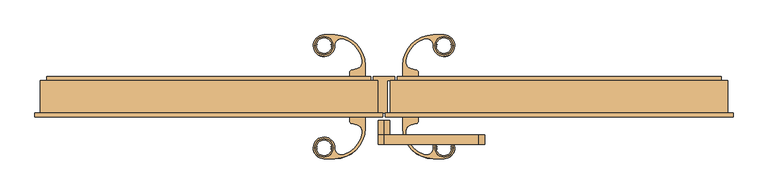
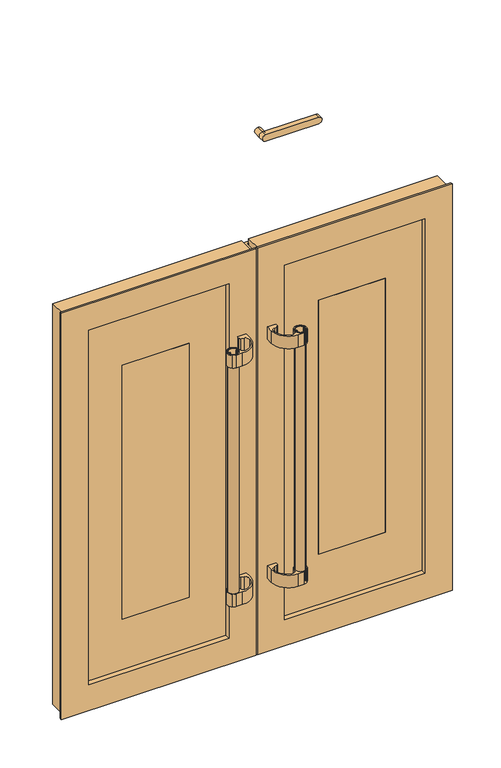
"""IFC4 building model written with IfcOpenShell, lengths in millimetres: door geometry, Dvokrilna vrata s ventusom : Dvokrilna vrata s ventusom."""

from ifc_helpers import new_model, si_unit, point, frame, frame_2d, origin, place, context, project, spatial, polyline, circle_curve, trimmed, segment, composite_curve, outline, extrude, faceted_brep, source, transform, mapped, element, save
from ifc_brep_helpers import plane_surface, cylinder_surface, advanced_brep


def door_8541cdd4(model_context):
    return source(origin(), model_context, "Body", "SolidModel", [
        extrude(outline(composite_curve([segment(trimmed(circle_curve(frame_2d((-126.3468771, 125.4548223)), 19.0), [point((-107.3468771, 125.4548223))], [point((-145.3468771, 125.4548223))], False, "CARTESIAN"), True, "CONTINUOUS"), segment(trimmed(circle_curve(frame_2d((-126.3468771, 125.4548223)), 19.0), [point((-145.3468771, 125.4548223))], [point((-107.3468771, 125.4548223))], False, "CARTESIAN"), True, "CONTINUOUS")], self_intersect=False), holes=[composite_curve([segment(polyline([(-112.9828926, 126.5508378), (-114.1294939, 126.5508378), (-114.1294939, 127.5219871)]), True, "CONTINUOUS"), segment(trimmed(circle_curve(frame_2d((-111.8868771, 125.4548223)), 3.05), [point((-114.1294939, 127.5219871))], [point((-111.8868771, 128.5048223))], False, "CARTESIAN"), True, "CONTINUOUS"), segment(polyline([(-111.8868771, 128.5048223), (-110.6402702, 128.5048223)]), True, "CONTINUOUS"), segment(trimmed(circle_curve(frame_2d((-126.3468771, 125.4548223)), 16.0), [point((-110.6402702, 128.5048223))], [point((-142.053484, 128.5048223))], True, "CARTESIAN"), True, "CONTINUOUS"), segment(polyline([(-142.053484, 128.5048223), (-140.8468771, 128.5048223)]), True, "CONTINUOUS"), segment(trimmed(circle_curve(frame_2d((-140.8468771, 125.4548223)), 3.05), [point((-140.8468771, 128.5048223))], [point((-138.6042604, 127.5219871))], False, "CARTESIAN"), True, "CONTINUOUS"), segment(polyline([(-138.6042604, 127.5219871), (-138.6042604, 126.5508378), (-139.7508616, 126.5508378)]), True, "CONTINUOUS"), segment(trimmed(circle_curve(frame_2d((-140.8468771, 125.4548223)), 1.55), [point((-139.7508616, 126.5508378))], [point((-139.7508616, 124.3588068))], True, "CARTESIAN"), True, "CONTINUOUS"), segment(polyline([(-139.7508616, 124.3588068), (-138.6042604, 124.3588068), (-138.6042604, 123.3876576)]), True, "CONTINUOUS"), segment(trimmed(circle_curve(frame_2d((-140.8468771, 125.4548223)), 3.05), [point((-138.6042604, 123.3876576))], [point((-140.8468771, 122.4048223))], False, "CARTESIAN"), True, "CONTINUOUS"), segment(polyline([(-140.8468771, 122.4048223), (-142.053484, 122.4048223)]), True, "CONTINUOUS"), segment(trimmed(circle_curve(frame_2d((-126.3468771, 125.4548223)), 16.0), [point((-142.053484, 122.4048223))], [point((-110.6402702, 122.4048223))], True, "CARTESIAN"), True, "CONTINUOUS"), segment(polyline([(-110.6402702, 122.4048223), (-111.8868771, 122.4048223)]), True, "CONTINUOUS"), segment(trimmed(circle_curve(frame_2d((-111.8868771, 125.4548223)), 3.05), [point((-111.8868771, 122.4048223))], [point((-114.1294939, 123.3876576))], False, "CARTESIAN"), True, "CONTINUOUS"), segment(polyline([(-114.1294939, 123.3876576), (-114.1294939, 124.3588068), (-112.9828926, 124.3588068)]), True, "CONTINUOUS"), segment(trimmed(circle_curve(frame_2d((-111.8868771, 125.4548223)), 1.55), [point((-112.9828926, 124.3588068))], [point((-112.9828926, 126.5508378))], True, "CARTESIAN"), True, "CONTINUOUS")], self_intersect=False)]), frame((0.0, 0.0, 310.4), z_axis=(0.0, 0.0, 1.0), x_axis=(1.0, 0.0, 0.0)), (0.0, 0.0, 1.0), 1000.0),
        extrude(outline(composite_curve([segment(polyline([(-44.8, 60.0070601), (-71.8, 60.0070601), (-71.8, 69.3089889)]), True, "CONTINUOUS"), segment(trimmed(circle_curve(frame_2d((-66.8, 69.3089889)), 5.0), [point((-71.8, 69.3089889))], [point((-68.0940952, 74.1386181))], False, "CARTESIAN"), True, "CONTINUOUS"), segment(polyline([(-68.0940952, 74.1386181), (-56.563748, 77.2281653)]), True, "CONTINUOUS"), segment(trimmed(circle_curve(frame_2d((-60.4470213, 91.7207385)), 15.0038159), [point((-56.563748, 77.2281653))], [point((-45.732154, 94.6511262))], True, "CARTESIAN"), True, "CONTINUOUS"), segment(trimmed(circle_curve(frame_2d((-103.7276627, 84.2655205)), 58.9180773), [point((-45.732154, 94.6511262))], [point((-83.4290233, 139.5765056))], True, "CARTESIAN"), True, "CONTINUOUS"), segment(trimmed(circle_curve(frame_2d((-88.5968855, 125.4947959)), 15.0000449), [point((-83.4290233, 139.5765056))], [point((-103.5968771, 125.4548223))], True, "CARTESIAN"), True, "CONTINUOUS"), segment(trimmed(circle_curve(frame_2d((-126.2285098, 125.3945111)), 22.631713), [point((-103.5968771, 125.4548223))], [point((-112.9747626, 107.0496857))], False, "CARTESIAN"), True, "CONTINUOUS"), segment(trimmed(circle_curve(frame_2d((-126.3418186, 125.5513446)), 22.8251959), [point((-112.9747626, 107.0496857))], [point((-141.5695984, 108.5482775))], False, "CARTESIAN"), True, "CONTINUOUS"), segment(trimmed(circle_curve(frame_2d((-126.4246143, 125.4588964)), 22.7010919), [point((-141.5695984, 108.5482775))], [point((-139.7189916, 143.8599589))], False, "CARTESIAN"), True, "CONTINUOUS"), segment(trimmed(circle_curve(frame_2d((-126.2827327, 125.2625146)), 22.9433648), [point((-139.7189916, 143.8599589))], [point((-126.7011778, 148.2020633))], False, "CARTESIAN"), True, "CONTINUOUS"), segment(polyline([(-126.7011778, 148.2020633), (-103.797241, 148.2020633)]), True, "CONTINUOUS"), segment(trimmed(circle_curve(frame_2d((-103.797241, 84.2048223)), 63.997241), [point((-103.797241, 148.2020633))], [point((-39.8, 84.2048223))], False, "CARTESIAN"), True, "CONTINUOUS"), segment(polyline([(-39.8, 84.2048223), (-39.8, 60.0070601), (-44.8, 60.0070601)]), True, "CONTINUOUS")], self_intersect=False), holes=[composite_curve([segment(trimmed(circle_curve(frame_2d((-126.3468771, 125.4548223)), 19.25), [point((-107.0968771, 125.4548223))], [point((-145.5968771, 125.4548223))], True, "CARTESIAN"), True, "CONTINUOUS"), segment(trimmed(circle_curve(frame_2d((-126.3468771, 125.4548223)), 19.25), [point((-145.5968771, 125.4548223))], [point((-107.0968771, 125.4548223))], True, "CARTESIAN"), True, "CONTINUOUS")], self_intersect=False)]), frame((0.0, 0.0, 1260.4), z_axis=(0.0, 0.0, 1.0), x_axis=(1.0, 0.0, 0.0)), (0.0, 0.0, 1.0), 50.0),
        extrude(outline(composite_curve([segment(polyline([(-44.8, 60.0070601), (-71.8, 60.0070601), (-71.8, 69.3089889)]), True, "CONTINUOUS"), segment(trimmed(circle_curve(frame_2d((-66.8, 69.3089889)), 5.0), [point((-71.8, 69.3089889))], [point((-68.0940952, 74.1386181))], False, "CARTESIAN"), True, "CONTINUOUS"), segment(polyline([(-68.0940952, 74.1386181), (-56.563748, 77.2281653)]), True, "CONTINUOUS"), segment(trimmed(circle_curve(frame_2d((-60.4470213, 91.7207385)), 15.0038159), [point((-56.563748, 77.2281653))], [point((-45.732154, 94.6511262))], True, "CARTESIAN"), True, "CONTINUOUS"), segment(trimmed(circle_curve(frame_2d((-103.7276627, 84.2655205)), 58.9180773), [point((-45.732154, 94.6511262))], [point((-83.4290233, 139.5765056))], True, "CARTESIAN"), True, "CONTINUOUS"), segment(trimmed(circle_curve(frame_2d((-88.5968855, 125.4947959)), 15.0000449), [point((-83.4290233, 139.5765056))], [point((-103.5968771, 125.4548223))], True, "CARTESIAN"), True, "CONTINUOUS"), segment(trimmed(circle_curve(frame_2d((-126.2285098, 125.3945111)), 22.631713), [point((-103.5968771, 125.4548223))], [point((-112.9747626, 107.0496857))], False, "CARTESIAN"), True, "CONTINUOUS"), segment(trimmed(circle_curve(frame_2d((-126.3418186, 125.5513446)), 22.8251959), [point((-112.9747626, 107.0496857))], [point((-141.5695984, 108.5482775))], False, "CARTESIAN"), True, "CONTINUOUS"), segment(trimmed(circle_curve(frame_2d((-126.4246143, 125.4588964)), 22.7010919), [point((-141.5695984, 108.5482775))], [point((-139.7189916, 143.8599589))], False, "CARTESIAN"), True, "CONTINUOUS"), segment(trimmed(circle_curve(frame_2d((-126.2827327, 125.2625146)), 22.9433648), [point((-139.7189916, 143.8599589))], [point((-126.7011778, 148.2020633))], False, "CARTESIAN"), True, "CONTINUOUS"), segment(polyline([(-126.7011778, 148.2020633), (-103.797241, 148.2020633)]), True, "CONTINUOUS"), segment(trimmed(circle_curve(frame_2d((-103.797241, 84.2048223)), 63.997241), [point((-103.797241, 148.2020633))], [point((-39.8, 84.2048223))], False, "CARTESIAN"), True, "CONTINUOUS"), segment(polyline([(-39.8, 84.2048223), (-39.8, 60.0070601), (-44.8, 60.0070601)]), True, "CONTINUOUS")], self_intersect=False), holes=[composite_curve([segment(trimmed(circle_curve(frame_2d((-126.3468771, 125.4548223)), 19.25), [point((-107.0968771, 125.4548223))], [point((-145.5968771, 125.4548223))], True, "CARTESIAN"), True, "CONTINUOUS"), segment(trimmed(circle_curve(frame_2d((-126.3468771, 125.4548223)), 19.25), [point((-145.5968771, 125.4548223))], [point((-107.0968771, 125.4548223))], True, "CARTESIAN"), True, "CONTINUOUS")], self_intersect=False)]), frame((0.0, 0.0, 310.4), z_axis=(0.0, 0.0, 1.0), x_axis=(1.0, 0.0, 0.0)), (0.0, 0.0, 1.0), 50.0),
        extrude(outline(composite_curve([segment(trimmed(circle_curve(frame_2d((-126.3468771, -90.4477622)), 19.0), [point((-107.3468771, -90.4477622))], [point((-145.3468771, -90.4477622))], False, "CARTESIAN"), True, "CONTINUOUS"), segment(trimmed(circle_curve(frame_2d((-126.3468771, -90.4477622)), 19.0), [point((-145.3468771, -90.4477622))], [point((-107.3468771, -90.4477622))], False, "CARTESIAN"), True, "CONTINUOUS")], self_intersect=False), holes=[composite_curve([segment(trimmed(circle_curve(frame_2d((-111.8868771, -90.4477622)), 1.55), [point((-112.9828926, -91.5437777))], [point((-112.9828926, -89.3517467))], True, "CARTESIAN"), True, "CONTINUOUS"), segment(polyline([(-112.9828926, -89.3517467), (-114.1294939, -89.3517467), (-114.1294939, -88.3805975)]), True, "CONTINUOUS"), segment(trimmed(circle_curve(frame_2d((-111.8868771, -90.4477622)), 3.05), [point((-114.1294939, -88.3805975))], [point((-111.8868771, -87.3977622))], False, "CARTESIAN"), True, "CONTINUOUS"), segment(polyline([(-111.8868771, -87.3977622), (-110.6402702, -87.3977622)]), True, "CONTINUOUS"), segment(trimmed(circle_curve(frame_2d((-126.3468771, -90.4477622)), 16.0), [point((-110.6402702, -87.3977622))], [point((-142.053484, -87.3977622))], True, "CARTESIAN"), True, "CONTINUOUS"), segment(polyline([(-142.053484, -87.3977622), (-140.8468771, -87.3977622)]), True, "CONTINUOUS"), segment(trimmed(circle_curve(frame_2d((-140.8468771, -90.4477622)), 3.05), [point((-140.8468771, -87.3977622))], [point((-138.6042604, -88.3805975))], False, "CARTESIAN"), True, "CONTINUOUS"), segment(polyline([(-138.6042604, -88.3805975), (-138.6042604, -89.3517467), (-139.7508616, -89.3517467)]), True, "CONTINUOUS"), segment(trimmed(circle_curve(frame_2d((-140.8468771, -90.4477622)), 1.55), [point((-139.7508616, -89.3517467))], [point((-139.7508616, -91.5437777))], True, "CARTESIAN"), True, "CONTINUOUS"), segment(polyline([(-139.7508616, -91.5437777), (-138.6042604, -91.5437777), (-138.6042604, -92.514927)]), True, "CONTINUOUS"), segment(trimmed(circle_curve(frame_2d((-140.8468771, -90.4477622)), 3.05), [point((-138.6042604, -92.514927))], [point((-140.8468771, -93.4977622))], False, "CARTESIAN"), True, "CONTINUOUS"), segment(polyline([(-140.8468771, -93.4977622), (-142.053484, -93.4977622)]), True, "CONTINUOUS"), segment(trimmed(circle_curve(frame_2d((-126.3468771, -90.4477622)), 16.0), [point((-142.053484, -93.4977622))], [point((-110.6402702, -93.4977622))], True, "CARTESIAN"), True, "CONTINUOUS"), segment(polyline([(-110.6402702, -93.4977622), (-111.8868771, -93.4977622)]), True, "CONTINUOUS"), segment(trimmed(circle_curve(frame_2d((-111.8868771, -90.4477622)), 3.05), [point((-111.8868771, -93.4977622))], [point((-114.1294939, -92.514927))], False, "CARTESIAN"), True, "CONTINUOUS"), segment(polyline([(-114.1294939, -92.514927), (-114.1294939, -91.5437777), (-112.9828926, -91.5437777)]), True, "CONTINUOUS")], self_intersect=False)]), frame((0.0, 0.0, 310.4), z_axis=(0.0, 0.0, 1.0), x_axis=(1.0, 0.0, 0.0)), (0.0, 0.0, 1.0), 1000.0),
        extrude(outline(composite_curve([segment(polyline([(-44.8, -25.0), (-39.8, -25.0), (-39.8, -49.1977622)]), True, "CONTINUOUS"), segment(trimmed(circle_curve(frame_2d((-103.797241, -49.1977622)), 63.997241), [point((-39.8, -49.1977622))], [point((-103.797241, -113.1950032))], False, "CARTESIAN"), True, "CONTINUOUS"), segment(polyline([(-103.797241, -113.1950032), (-126.7011778, -113.1950032)]), True, "CONTINUOUS"), segment(trimmed(circle_curve(frame_2d((-126.2827327, -90.2554545)), 22.9433648), [point((-126.7011778, -113.1950032))], [point((-139.7189916, -108.8528989))], False, "CARTESIAN"), True, "CONTINUOUS"), segment(trimmed(circle_curve(frame_2d((-126.4246143, -90.4518363)), 22.7010919), [point((-139.7189916, -108.8528989))], [point((-141.5695984, -73.5412175))], False, "CARTESIAN"), True, "CONTINUOUS"), segment(trimmed(circle_curve(frame_2d((-126.3418186, -90.5442845)), 22.8251959), [point((-141.5695984, -73.5412175))], [point((-112.9747626, -72.0426256))], False, "CARTESIAN"), True, "CONTINUOUS"), segment(trimmed(circle_curve(frame_2d((-126.2285098, -90.3874511)), 22.631713), [point((-112.9747626, -72.0426256))], [point((-103.5968771, -90.4477622))], False, "CARTESIAN"), True, "CONTINUOUS"), segment(trimmed(circle_curve(frame_2d((-88.5968855, -90.4877358)), 15.0000449), [point((-103.5968771, -90.4477622))], [point((-83.4290233, -104.5694455))], True, "CARTESIAN"), True, "CONTINUOUS"), segment(trimmed(circle_curve(frame_2d((-103.7276627, -49.2584604)), 58.9180773), [point((-83.4290233, -104.5694455))], [point((-45.732154, -59.6440661))], True, "CARTESIAN"), True, "CONTINUOUS"), segment(trimmed(circle_curve(frame_2d((-60.4470213, -56.7136785)), 15.0038159), [point((-45.732154, -59.6440661))], [point((-56.563748, -42.2211052))], True, "CARTESIAN"), True, "CONTINUOUS"), segment(polyline([(-56.563748, -42.2211052), (-68.0940952, -39.131558)]), True, "CONTINUOUS"), segment(trimmed(circle_curve(frame_2d((-66.8, -34.3019289)), 5.0), [point((-68.0940952, -39.131558))], [point((-71.8, -34.3019289))], False, "CARTESIAN"), True, "CONTINUOUS"), segment(polyline([(-71.8, -34.3019289), (-71.8, -25.0), (-44.8, -25.0)]), True, "CONTINUOUS")], self_intersect=False), holes=[composite_curve([segment(trimmed(circle_curve(frame_2d((-126.3468771, -90.4477622)), 19.25), [point((-107.0968771, -90.4477622))], [point((-145.5968771, -90.4477622))], True, "CARTESIAN"), True, "CONTINUOUS"), segment(trimmed(circle_curve(frame_2d((-126.3468771, -90.4477622)), 19.25), [point((-145.5968771, -90.4477622))], [point((-107.0968771, -90.4477622))], True, "CARTESIAN"), True, "CONTINUOUS")], self_intersect=False)]), frame((0.0, 0.0, 1260.4), z_axis=(0.0, 0.0, 1.0), x_axis=(1.0, 0.0, 0.0)), (0.0, 0.0, 1.0), 50.0),
        extrude(outline(composite_curve([segment(polyline([(-44.8, -25.0), (-39.8, -25.0), (-39.8, -49.1977622)]), True, "CONTINUOUS"), segment(trimmed(circle_curve(frame_2d((-103.797241, -49.1977622)), 63.997241), [point((-39.8, -49.1977622))], [point((-103.797241, -113.1950032))], False, "CARTESIAN"), True, "CONTINUOUS"), segment(polyline([(-103.797241, -113.1950032), (-126.7011778, -113.1950032)]), True, "CONTINUOUS"), segment(trimmed(circle_curve(frame_2d((-126.2827327, -90.2554545)), 22.9433648), [point((-126.7011778, -113.1950032))], [point((-139.7189916, -108.8528989))], False, "CARTESIAN"), True, "CONTINUOUS"), segment(trimmed(circle_curve(frame_2d((-126.4246143, -90.4518363)), 22.7010919), [point((-139.7189916, -108.8528989))], [point((-141.5695984, -73.5412175))], False, "CARTESIAN"), True, "CONTINUOUS"), segment(trimmed(circle_curve(frame_2d((-126.3418186, -90.5442845)), 22.8251959), [point((-141.5695984, -73.5412175))], [point((-112.9747626, -72.0426256))], False, "CARTESIAN"), True, "CONTINUOUS"), segment(trimmed(circle_curve(frame_2d((-126.2285098, -90.3874511)), 22.631713), [point((-112.9747626, -72.0426256))], [point((-103.5968771, -90.4477622))], False, "CARTESIAN"), True, "CONTINUOUS"), segment(trimmed(circle_curve(frame_2d((-88.5968855, -90.4877358)), 15.0000449), [point((-103.5968771, -90.4477622))], [point((-83.4290233, -104.5694455))], True, "CARTESIAN"), True, "CONTINUOUS"), segment(trimmed(circle_curve(frame_2d((-103.7276627, -49.2584604)), 58.9180773), [point((-83.4290233, -104.5694455))], [point((-45.732154, -59.6440661))], True, "CARTESIAN"), True, "CONTINUOUS"), segment(trimmed(circle_curve(frame_2d((-60.4470213, -56.7136785)), 15.0038159), [point((-45.732154, -59.6440661))], [point((-56.563748, -42.2211052))], True, "CARTESIAN"), True, "CONTINUOUS"), segment(polyline([(-56.563748, -42.2211052), (-68.0940952, -39.131558)]), True, "CONTINUOUS"), segment(trimmed(circle_curve(frame_2d((-66.8, -34.3019289)), 5.0), [point((-68.0940952, -39.131558))], [point((-71.8, -34.3019289))], False, "CARTESIAN"), True, "CONTINUOUS"), segment(polyline([(-71.8, -34.3019289), (-71.8, -25.0), (-44.8, -25.0)]), True, "CONTINUOUS")], self_intersect=False), holes=[composite_curve([segment(trimmed(circle_curve(frame_2d((-126.3468771, -90.4477622)), 19.25), [point((-107.0968771, -90.4477622))], [point((-145.5968771, -90.4477622))], True, "CARTESIAN"), True, "CONTINUOUS"), segment(trimmed(circle_curve(frame_2d((-126.3468771, -90.4477622)), 19.25), [point((-145.5968771, -90.4477622))], [point((-107.0968771, -90.4477622))], True, "CARTESIAN"), True, "CONTINUOUS")], self_intersect=False)]), frame((0.0, 0.0, 310.4), z_axis=(0.0, 0.0, 1.0), x_axis=(1.0, 0.0, 0.0)), (0.0, 0.0, 1.0), 50.0),
        faceted_brep([(-104.9959227, -25.0, 1533.0040773), (-104.9959227, -5.1975248, 1533.0040773), (-104.9959227, -5.1975248, 122.4959227), (-104.9959227, -25.0, 122.4959227), (-84.4102206, -5.1975248, 1553.5897794), (-84.4102206, -5.1975248, 101.9102206), (-653.5897794, -5.1975248, 101.9102206), (-653.5897794, -5.1975248, 1553.5897794), (-633.0040773, -5.1975248, 1533.0040773), (-633.0040773, -5.1975248, 122.4959227), (-633.0040773, -25.0, 122.4959227), (-2.5, -25.0, 20.0), (-2.5, -25.0, 1635.5), (-735.5, -25.0, 1635.5), (-735.5, -25.0, 20.0), (-633.0040773, -25.0, 1533.0040773), (-84.4102206, 47.3125612, 1553.5897794), (-84.4102206, 47.3125612, 101.9102206), (-36.5110576, 47.3125612, 1601.4889424), (-36.5110576, 47.3125612, 54.0110576), (-701.4889424, 47.3125612, 54.0110576), (-701.4889424, 47.3125612, 1601.4889424), (-653.5897794, 47.3125612, 1553.5897794), (-653.5897794, 47.3125612, 101.9102206), (-36.5110576, 51.5919173, 1601.4889424), (-36.5110576, 51.5919173, 54.0110576), (-28.8049947, 51.5919173, 1609.1950053), (-28.8049947, 51.5919173, 46.3049947), (-709.1950053, 51.5919173, 46.3049947), (-709.1950053, 51.5919173, 1609.1950053), (-701.4889424, 51.5919173, 1601.4889424), (-701.4889424, 51.5919173, 54.0110576), (-28.8049947, 60.0070601, 1609.1950053), (-28.8049947, 60.0070601, 46.3049947), (-27.4996768, 60.0070601, 1610.5003232), (-27.4996768, 60.0070601, 44.9996768), (-710.5003232, 60.0070601, 44.9996768), (-710.5003232, 60.0070601, 1610.5003232), (-709.1950053, 60.0070601, 1609.1950053), (-709.1950053, 60.0070601, 46.3049947), (-27.4996768, 51.4919173, 1610.5003232), (-27.4996768, 51.4919173, 44.9996768), (-13.5, 51.4919173, 31.0), (-724.5, 51.4919173, 31.0), (-724.5, 51.4919173, 1624.5), (-13.5, 51.4919173, 1624.5), (-13.5, 51.4919173, 1607.0), (-17.35, 51.4919173, 1607.0), (-22.5017399, 51.4919173, 1607.0), (-22.5017399, 51.4919173, 48.5), (-17.35, 51.4919173, 48.5), (-13.5, 51.4919173, 48.5), (-710.5003232, 51.4919173, 1610.5003232), (-710.5003232, 51.4919173, 44.9996768), (-13.5, -16.646765, 31.0), (-13.5, -16.646765, 48.5), (-13.5, -16.646765, 1624.5), (-13.5, -16.646765, 1607.0), (-724.5, -16.646765, 31.0), (-22.5017399, 59.9919173, 48.5), (22.4957893, 59.9919173, 48.5), (22.4957893, 51.5218617, 48.5), (7.0030683, 51.5218617, 48.5), (7.0030683, -16.5069245, 48.5), (-2.5, -16.646765, 48.5), (-2.5, -16.646765, 20.0), (-735.5, -16.646765, 20.0), (-735.5, -16.646765, 1635.5), (-2.5, -16.646765, 1635.5), (-2.5, -16.646765, 1607.0), (-724.5, -16.646765, 1624.5), (7.0030683, -16.5069245, 1607.0), (-22.5017399, 59.9919173, 1607.0), (22.4957893, 59.9919173, 1607.0), (22.4957893, 51.5218617, 1607.0), (7.0030683, 51.5218617, 1607.0)], [[[0, 1, 2, 3]], [[4, 5, 6, 7], [2, 1, 8, 9]], [[3, 2, 9, 10]], [[11, 12, 13, 14], [0, 3, 10, 15]], [[4, 16, 17, 5]], [[18, 19, 20, 21], [17, 16, 22, 23]], [[5, 17, 23, 6]], [[18, 24, 25, 19]], [[26, 27, 28, 29], [25, 24, 30, 31]], [[19, 25, 31, 20]], [[26, 32, 33, 27]], [[34, 35, 36, 37], [33, 32, 38, 39]], [[27, 33, 39, 28]], [[34, 40, 41, 35]], [[42, 43, 44, 45, 46, 47, 48, 49, 50, 51], [41, 40, 52, 53]], [[35, 41, 53, 36]], [[54, 42, 51, 55]], [[45, 56, 57, 46]], [[42, 54, 58, 43]], [[49, 59, 60, 61, 62, 63, 64, 55, 51, 50]], [[58, 54, 55, 64, 65, 66, 67, 68, 69, 57, 56, 70]], [[12, 11, 65, 64, 69, 68]], [[65, 11, 14, 66]], [[63, 71, 69, 64]], [[10, 9, 8, 15]], [[6, 23, 22, 7]], [[20, 31, 30, 21]], [[28, 39, 38, 29]], [[36, 53, 52, 37]], [[43, 58, 70, 44]], [[66, 14, 13, 67]], [[48, 72, 59, 49]], [[72, 73, 60, 59]], [[73, 74, 61, 60]], [[74, 75, 62, 61]], [[75, 71, 63, 62]], [[1, 0, 15, 8]], [[16, 4, 7, 22]], [[24, 18, 21, 30]], [[32, 26, 29, 38]], [[40, 34, 37, 52]], [[56, 45, 44, 70]], [[12, 68, 67, 13]], [[71, 75, 74, 73, 72, 48, 47, 46, 57, 69]]]),
        extrude(outline(polyline([(-242.7, -5.1975248), (-495.3, -5.1975248), (-495.3, 60.0070601), (-242.7, 60.0070601), (-242.7, -5.1975248)])), frame((0.0, 0.0, 322.4959227), z_axis=(0.0, 0.0, 1.0), x_axis=(1.0, 0.0, 0.0)), (0.0, 0.0, 1.0), 1010.5081546),
        extrude(outline(polyline([(1609.1950053, -28.8049947), (1609.1950053, -709.1950053), (46.3049947, -709.1950053), (46.3049947, -28.8049947), (1609.1950053, -28.8049947)]), holes=[polyline([(1333.0040773, -495.3), (1333.0040773, -242.7), (322.4959227, -242.7), (322.4959227, -495.3), (1333.0040773, -495.3)])]), frame((0.0, 57.0070601, 0.0), z_axis=(0.0, 1.0, 0.0), x_axis=(0.0, 0.0, 1.0)), (0.0, 0.0, 1.0), 3.0),
        extrude(outline(polyline([(1533.0040773, -104.9959227), (1533.0040773, -633.0040773), (122.4959227, -633.0040773), (122.4959227, -104.9959227), (1533.0040773, -104.9959227)]), holes=[polyline([(1333.0040773, -495.3), (1333.0040773, -242.7), (322.4959227, -242.7), (322.4959227, -495.3), (1333.0040773, -495.3)])]), frame((0.0, -5.1975248, 0.0), z_axis=(0.0, 1.0, 0.0), x_axis=(0.0, 0.0, 1.0)), (0.0, 0.0, 1.0), 3.0),
        extrude(outline(composite_curve([segment(trimmed(circle_curve(frame_2d((126.3468771, 125.4548223)), 19.0), [point((107.3468771, 125.4548223))], [point((145.3468771, 125.4548223))], False, "CARTESIAN"), True, "CONTINUOUS"), segment(trimmed(circle_curve(frame_2d((126.3468771, 125.4548223)), 19.0), [point((145.3468771, 125.4548223))], [point((107.3468771, 125.4548223))], False, "CARTESIAN"), True, "CONTINUOUS")], self_intersect=False), holes=[composite_curve([segment(trimmed(circle_curve(frame_2d((111.8868771, 125.4548223)), 1.55), [point((112.9828926, 126.5508378))], [point((112.9828926, 124.3588068))], True, "CARTESIAN"), True, "CONTINUOUS"), segment(polyline([(112.9828926, 124.3588068), (114.1294939, 124.3588068), (114.1294939, 123.3876576)]), True, "CONTINUOUS"), segment(trimmed(circle_curve(frame_2d((111.8868771, 125.4548223)), 3.05), [point((114.1294939, 123.3876576))], [point((111.8868771, 122.4048223))], False, "CARTESIAN"), True, "CONTINUOUS"), segment(polyline([(111.8868771, 122.4048223), (110.6402702, 122.4048223)]), True, "CONTINUOUS"), segment(trimmed(circle_curve(frame_2d((126.3468771, 125.4548223)), 16.0), [point((110.6402702, 122.4048223))], [point((142.053484, 122.4048223))], True, "CARTESIAN"), True, "CONTINUOUS"), segment(polyline([(142.053484, 122.4048223), (140.8468771, 122.4048223)]), True, "CONTINUOUS"), segment(trimmed(circle_curve(frame_2d((140.8468771, 125.4548223)), 3.05), [point((140.8468771, 122.4048223))], [point((138.6042604, 123.3876576))], False, "CARTESIAN"), True, "CONTINUOUS"), segment(polyline([(138.6042604, 123.3876576), (138.6042604, 124.3588068), (139.7508616, 124.3588068)]), True, "CONTINUOUS"), segment(trimmed(circle_curve(frame_2d((140.8468771, 125.4548223)), 1.55), [point((139.7508616, 124.3588068))], [point((139.7508616, 126.5508378))], True, "CARTESIAN"), True, "CONTINUOUS"), segment(polyline([(139.7508616, 126.5508378), (138.6042604, 126.5508378), (138.6042604, 127.5219871)]), True, "CONTINUOUS"), segment(trimmed(circle_curve(frame_2d((140.8468771, 125.4548223)), 3.05), [point((138.6042604, 127.5219871))], [point((140.8468771, 128.5048223))], False, "CARTESIAN"), True, "CONTINUOUS"), segment(polyline([(140.8468771, 128.5048223), (142.053484, 128.5048223)]), True, "CONTINUOUS"), segment(trimmed(circle_curve(frame_2d((126.3468771, 125.4548223)), 16.0), [point((142.053484, 128.5048223))], [point((110.6402702, 128.5048223))], True, "CARTESIAN"), True, "CONTINUOUS"), segment(polyline([(110.6402702, 128.5048223), (111.8868771, 128.5048223)]), True, "CONTINUOUS"), segment(trimmed(circle_curve(frame_2d((111.8868771, 125.4548223)), 3.05), [point((111.8868771, 128.5048223))], [point((114.1294939, 127.5219871))], False, "CARTESIAN"), True, "CONTINUOUS"), segment(polyline([(114.1294939, 127.5219871), (114.1294939, 126.5508378), (112.9828926, 126.5508378)]), True, "CONTINUOUS")], self_intersect=False)]), frame((0.0, 0.0, 310.4), z_axis=(0.0, 0.0, 1.0), x_axis=(1.0, 0.0, 0.0)), (0.0, 0.0, 1.0), 1000.0),
        extrude(outline(composite_curve([segment(polyline([(44.8, 60.0070601), (39.8, 60.0070601), (39.8, 84.2048223)]), True, "CONTINUOUS"), segment(trimmed(circle_curve(frame_2d((103.797241, 84.2048223)), 63.997241), [point((39.8, 84.2048223))], [point((103.797241, 148.2020633))], False, "CARTESIAN"), True, "CONTINUOUS"), segment(polyline([(103.797241, 148.2020633), (126.7011778, 148.2020633)]), True, "CONTINUOUS"), segment(trimmed(circle_curve(frame_2d((126.2827327, 125.2625146)), 22.9433648), [point((126.7011778, 148.2020633))], [point((139.7189916, 143.8599589))], False, "CARTESIAN"), True, "CONTINUOUS"), segment(trimmed(circle_curve(frame_2d((126.4246143, 125.4588964)), 22.7010919), [point((139.7189916, 143.8599589))], [point((141.5695984, 108.5482775))], False, "CARTESIAN"), True, "CONTINUOUS"), segment(trimmed(circle_curve(frame_2d((126.3418186, 125.5513446)), 22.8251959), [point((141.5695984, 108.5482775))], [point((112.9747626, 107.0496857))], False, "CARTESIAN"), True, "CONTINUOUS"), segment(trimmed(circle_curve(frame_2d((126.2285098, 125.3945111)), 22.631713), [point((112.9747626, 107.0496857))], [point((103.5968771, 125.4548223))], False, "CARTESIAN"), True, "CONTINUOUS"), segment(trimmed(circle_curve(frame_2d((88.5968855, 125.4947959)), 15.0000449), [point((103.5968771, 125.4548223))], [point((83.4290233, 139.5765056))], True, "CARTESIAN"), True, "CONTINUOUS"), segment(trimmed(circle_curve(frame_2d((103.7276627, 84.2655205)), 58.9180773), [point((83.4290233, 139.5765056))], [point((45.732154, 94.6511262))], True, "CARTESIAN"), True, "CONTINUOUS"), segment(trimmed(circle_curve(frame_2d((60.4470213, 91.7207385)), 15.0038159), [point((45.732154, 94.6511262))], [point((56.563748, 77.2281653))], True, "CARTESIAN"), True, "CONTINUOUS"), segment(polyline([(56.563748, 77.2281653), (68.0940952, 74.1386181)]), True, "CONTINUOUS"), segment(trimmed(circle_curve(frame_2d((66.8, 69.3089889)), 5.0), [point((68.0940952, 74.1386181))], [point((71.8, 69.3089889))], False, "CARTESIAN"), True, "CONTINUOUS"), segment(polyline([(71.8, 69.3089889), (71.8, 60.0070601), (44.8, 60.0070601)]), True, "CONTINUOUS")], self_intersect=False), holes=[composite_curve([segment(trimmed(circle_curve(frame_2d((126.3468771, 125.4548223)), 19.25), [point((107.0968771, 125.4548223))], [point((145.5968771, 125.4548223))], True, "CARTESIAN"), True, "CONTINUOUS"), segment(trimmed(circle_curve(frame_2d((126.3468771, 125.4548223)), 19.25), [point((145.5968771, 125.4548223))], [point((107.0968771, 125.4548223))], True, "CARTESIAN"), True, "CONTINUOUS")], self_intersect=False)]), frame((0.0, 0.0, 1260.4), z_axis=(0.0, 0.0, 1.0), x_axis=(1.0, 0.0, 0.0)), (0.0, 0.0, 1.0), 50.0),
        extrude(outline(composite_curve([segment(polyline([(44.8, 60.0070601), (39.8, 60.0070601), (39.8, 84.2048223)]), True, "CONTINUOUS"), segment(trimmed(circle_curve(frame_2d((103.797241, 84.2048223)), 63.997241), [point((39.8, 84.2048223))], [point((103.797241, 148.2020633))], False, "CARTESIAN"), True, "CONTINUOUS"), segment(polyline([(103.797241, 148.2020633), (126.7011778, 148.2020633)]), True, "CONTINUOUS"), segment(trimmed(circle_curve(frame_2d((126.2827327, 125.2625146)), 22.9433648), [point((126.7011778, 148.2020633))], [point((139.7189916, 143.8599589))], False, "CARTESIAN"), True, "CONTINUOUS"), segment(trimmed(circle_curve(frame_2d((126.4246143, 125.4588964)), 22.7010919), [point((139.7189916, 143.8599589))], [point((141.5695984, 108.5482775))], False, "CARTESIAN"), True, "CONTINUOUS"), segment(trimmed(circle_curve(frame_2d((126.3418186, 125.5513446)), 22.8251959), [point((141.5695984, 108.5482775))], [point((112.9747626, 107.0496857))], False, "CARTESIAN"), True, "CONTINUOUS"), segment(trimmed(circle_curve(frame_2d((126.2285098, 125.3945111)), 22.631713), [point((112.9747626, 107.0496857))], [point((103.5968771, 125.4548223))], False, "CARTESIAN"), True, "CONTINUOUS"), segment(trimmed(circle_curve(frame_2d((88.5968855, 125.4947959)), 15.0000449), [point((103.5968771, 125.4548223))], [point((83.4290233, 139.5765056))], True, "CARTESIAN"), True, "CONTINUOUS"), segment(trimmed(circle_curve(frame_2d((103.7276627, 84.2655205)), 58.9180773), [point((83.4290233, 139.5765056))], [point((45.732154, 94.6511262))], True, "CARTESIAN"), True, "CONTINUOUS"), segment(trimmed(circle_curve(frame_2d((60.4470213, 91.7207385)), 15.0038159), [point((45.732154, 94.6511262))], [point((56.563748, 77.2281653))], True, "CARTESIAN"), True, "CONTINUOUS"), segment(polyline([(56.563748, 77.2281653), (68.0940952, 74.1386181)]), True, "CONTINUOUS"), segment(trimmed(circle_curve(frame_2d((66.8, 69.3089889)), 5.0), [point((68.0940952, 74.1386181))], [point((71.8, 69.3089889))], False, "CARTESIAN"), True, "CONTINUOUS"), segment(polyline([(71.8, 69.3089889), (71.8, 60.0070601), (44.8, 60.0070601)]), True, "CONTINUOUS")], self_intersect=False), holes=[composite_curve([segment(trimmed(circle_curve(frame_2d((126.3468771, 125.4548223)), 19.25), [point((107.0968771, 125.4548223))], [point((145.5968771, 125.4548223))], True, "CARTESIAN"), True, "CONTINUOUS"), segment(trimmed(circle_curve(frame_2d((126.3468771, 125.4548223)), 19.25), [point((145.5968771, 125.4548223))], [point((107.0968771, 125.4548223))], True, "CARTESIAN"), True, "CONTINUOUS")], self_intersect=False)]), frame((0.0, 0.0, 310.4), z_axis=(0.0, 0.0, 1.0), x_axis=(1.0, 0.0, 0.0)), (0.0, 0.0, 1.0), 50.0),
        extrude(outline(composite_curve([segment(trimmed(circle_curve(frame_2d((126.3468771, -90.4477622)), 19.0), [point((107.3468771, -90.4477622))], [point((145.3468771, -90.4477622))], False, "CARTESIAN"), True, "CONTINUOUS"), segment(trimmed(circle_curve(frame_2d((126.3468771, -90.4477622)), 19.0), [point((145.3468771, -90.4477622))], [point((107.3468771, -90.4477622))], False, "CARTESIAN"), True, "CONTINUOUS")], self_intersect=False), holes=[composite_curve([segment(polyline([(112.9828926, -91.5437777), (114.1294939, -91.5437777), (114.1294939, -92.514927)]), True, "CONTINUOUS"), segment(trimmed(circle_curve(frame_2d((111.8868771, -90.4477622)), 3.05), [point((114.1294939, -92.514927))], [point((111.8868771, -93.4977622))], False, "CARTESIAN"), True, "CONTINUOUS"), segment(polyline([(111.8868771, -93.4977622), (110.6402702, -93.4977622)]), True, "CONTINUOUS"), segment(trimmed(circle_curve(frame_2d((126.3468771, -90.4477622)), 16.0), [point((110.6402702, -93.4977622))], [point((142.053484, -93.4977622))], True, "CARTESIAN"), True, "CONTINUOUS"), segment(polyline([(142.053484, -93.4977622), (140.8468771, -93.4977622)]), True, "CONTINUOUS"), segment(trimmed(circle_curve(frame_2d((140.8468771, -90.4477622)), 3.05), [point((140.8468771, -93.4977622))], [point((138.6042604, -92.514927))], False, "CARTESIAN"), True, "CONTINUOUS"), segment(polyline([(138.6042604, -92.514927), (138.6042604, -91.5437777), (139.7508616, -91.5437777)]), True, "CONTINUOUS"), segment(trimmed(circle_curve(frame_2d((140.8468771, -90.4477622)), 1.55), [point((139.7508616, -91.5437777))], [point((139.7508616, -89.3517467))], True, "CARTESIAN"), True, "CONTINUOUS"), segment(polyline([(139.7508616, -89.3517467), (138.6042604, -89.3517467), (138.6042604, -88.3805975)]), True, "CONTINUOUS"), segment(trimmed(circle_curve(frame_2d((140.8468771, -90.4477622)), 3.05), [point((138.6042604, -88.3805975))], [point((140.8468771, -87.3977622))], False, "CARTESIAN"), True, "CONTINUOUS"), segment(polyline([(140.8468771, -87.3977622), (142.053484, -87.3977622)]), True, "CONTINUOUS"), segment(trimmed(circle_curve(frame_2d((126.3468771, -90.4477622)), 16.0), [point((142.053484, -87.3977622))], [point((110.6402702, -87.3977622))], True, "CARTESIAN"), True, "CONTINUOUS"), segment(polyline([(110.6402702, -87.3977622), (111.8868771, -87.3977622)]), True, "CONTINUOUS"), segment(trimmed(circle_curve(frame_2d((111.8868771, -90.4477622)), 3.05), [point((111.8868771, -87.3977622))], [point((114.1294939, -88.3805975))], False, "CARTESIAN"), True, "CONTINUOUS"), segment(polyline([(114.1294939, -88.3805975), (114.1294939, -89.3517467), (112.9828926, -89.3517467)]), True, "CONTINUOUS"), segment(trimmed(circle_curve(frame_2d((111.8868771, -90.4477622)), 1.55), [point((112.9828926, -89.3517467))], [point((112.9828926, -91.5437777))], True, "CARTESIAN"), True, "CONTINUOUS")], self_intersect=False)]), frame((0.0, 0.0, 310.4), z_axis=(0.0, 0.0, 1.0), x_axis=(1.0, 0.0, 0.0)), (0.0, 0.0, 1.0), 1000.0),
        extrude(outline(composite_curve([segment(polyline([(44.8, -25.0), (71.8, -25.0), (71.8, -34.3019289)]), True, "CONTINUOUS"), segment(trimmed(circle_curve(frame_2d((66.8, -34.3019289)), 5.0), [point((71.8, -34.3019289))], [point((68.0940952, -39.131558))], False, "CARTESIAN"), True, "CONTINUOUS"), segment(polyline([(68.0940952, -39.131558), (56.563748, -42.2211052)]), True, "CONTINUOUS"), segment(trimmed(circle_curve(frame_2d((60.4470213, -56.7136785)), 15.0038159), [point((56.563748, -42.2211052))], [point((45.732154, -59.6440661))], True, "CARTESIAN"), True, "CONTINUOUS"), segment(trimmed(circle_curve(frame_2d((103.7276627, -49.2584604)), 58.9180773), [point((45.732154, -59.6440661))], [point((83.4290233, -104.5694455))], True, "CARTESIAN"), True, "CONTINUOUS"), segment(trimmed(circle_curve(frame_2d((88.5968855, -90.4877358)), 15.0000449), [point((83.4290233, -104.5694455))], [point((103.5968771, -90.4477622))], True, "CARTESIAN"), True, "CONTINUOUS"), segment(trimmed(circle_curve(frame_2d((126.2285098, -90.3874511)), 22.631713), [point((103.5968771, -90.4477622))], [point((112.9747626, -72.0426256))], False, "CARTESIAN"), True, "CONTINUOUS"), segment(trimmed(circle_curve(frame_2d((126.3418186, -90.5442845)), 22.8251959), [point((112.9747626, -72.0426256))], [point((141.5695984, -73.5412175))], False, "CARTESIAN"), True, "CONTINUOUS"), segment(trimmed(circle_curve(frame_2d((126.4246143, -90.4518363)), 22.7010919), [point((141.5695984, -73.5412175))], [point((139.7189916, -108.8528989))], False, "CARTESIAN"), True, "CONTINUOUS"), segment(trimmed(circle_curve(frame_2d((126.2827327, -90.2554545)), 22.9433648), [point((139.7189916, -108.8528989))], [point((126.7011778, -113.1950032))], False, "CARTESIAN"), True, "CONTINUOUS"), segment(polyline([(126.7011778, -113.1950032), (103.797241, -113.1950032)]), True, "CONTINUOUS"), segment(trimmed(circle_curve(frame_2d((103.797241, -49.1977622)), 63.997241), [point((103.797241, -113.1950032))], [point((39.8, -49.1977622))], False, "CARTESIAN"), True, "CONTINUOUS"), segment(polyline([(39.8, -49.1977622), (39.8, -25.0), (44.8, -25.0)]), True, "CONTINUOUS")], self_intersect=False), holes=[composite_curve([segment(trimmed(circle_curve(frame_2d((126.3468771, -90.4477622)), 19.25), [point((107.0968771, -90.4477622))], [point((145.5968771, -90.4477622))], True, "CARTESIAN"), True, "CONTINUOUS"), segment(trimmed(circle_curve(frame_2d((126.3468771, -90.4477622)), 19.25), [point((145.5968771, -90.4477622))], [point((107.0968771, -90.4477622))], True, "CARTESIAN"), True, "CONTINUOUS")], self_intersect=False)]), frame((0.0, 0.0, 1260.4), z_axis=(0.0, 0.0, 1.0), x_axis=(1.0, 0.0, 0.0)), (0.0, 0.0, 1.0), 50.0),
        extrude(outline(composite_curve([segment(polyline([(44.8, -25.0), (71.8, -25.0), (71.8, -34.3019289)]), True, "CONTINUOUS"), segment(trimmed(circle_curve(frame_2d((66.8, -34.3019289)), 5.0), [point((71.8, -34.3019289))], [point((68.0940952, -39.131558))], False, "CARTESIAN"), True, "CONTINUOUS"), segment(polyline([(68.0940952, -39.131558), (56.563748, -42.2211052)]), True, "CONTINUOUS"), segment(trimmed(circle_curve(frame_2d((60.4470213, -56.7136785)), 15.0038159), [point((56.563748, -42.2211052))], [point((45.732154, -59.6440661))], True, "CARTESIAN"), True, "CONTINUOUS"), segment(trimmed(circle_curve(frame_2d((103.7276627, -49.2584604)), 58.9180773), [point((45.732154, -59.6440661))], [point((83.4290233, -104.5694455))], True, "CARTESIAN"), True, "CONTINUOUS"), segment(trimmed(circle_curve(frame_2d((88.5968855, -90.4877358)), 15.0000449), [point((83.4290233, -104.5694455))], [point((103.5968771, -90.4477622))], True, "CARTESIAN"), True, "CONTINUOUS"), segment(trimmed(circle_curve(frame_2d((126.2285098, -90.3874511)), 22.631713), [point((103.5968771, -90.4477622))], [point((112.9747626, -72.0426256))], False, "CARTESIAN"), True, "CONTINUOUS"), segment(trimmed(circle_curve(frame_2d((126.3418186, -90.5442845)), 22.8251959), [point((112.9747626, -72.0426256))], [point((141.5695984, -73.5412175))], False, "CARTESIAN"), True, "CONTINUOUS"), segment(trimmed(circle_curve(frame_2d((126.4246143, -90.4518363)), 22.7010919), [point((141.5695984, -73.5412175))], [point((139.7189916, -108.8528989))], False, "CARTESIAN"), True, "CONTINUOUS"), segment(trimmed(circle_curve(frame_2d((126.2827327, -90.2554545)), 22.9433648), [point((139.7189916, -108.8528989))], [point((126.7011778, -113.1950032))], False, "CARTESIAN"), True, "CONTINUOUS"), segment(polyline([(126.7011778, -113.1950032), (103.797241, -113.1950032)]), True, "CONTINUOUS"), segment(trimmed(circle_curve(frame_2d((103.797241, -49.1977622)), 63.997241), [point((103.797241, -113.1950032))], [point((39.8, -49.1977622))], False, "CARTESIAN"), True, "CONTINUOUS"), segment(polyline([(39.8, -49.1977622), (39.8, -25.0), (44.8, -25.0)]), True, "CONTINUOUS")], self_intersect=False), holes=[composite_curve([segment(trimmed(circle_curve(frame_2d((126.3468771, -90.4477622)), 19.25), [point((107.0968771, -90.4477622))], [point((145.5968771, -90.4477622))], True, "CARTESIAN"), True, "CONTINUOUS"), segment(trimmed(circle_curve(frame_2d((126.3468771, -90.4477622)), 19.25), [point((145.5968771, -90.4477622))], [point((107.0968771, -90.4477622))], True, "CARTESIAN"), True, "CONTINUOUS")], self_intersect=False)]), frame((0.0, 0.0, 310.4), z_axis=(0.0, 0.0, 1.0), x_axis=(1.0, 0.0, 0.0)), (0.0, 0.0, 1.0), 50.0),
        extrude(outline(polyline([(495.3, -5.1975248), (242.7, -5.1975248), (242.7, 60.0070601), (495.3, 60.0070601), (495.3, -5.1975248)])), frame((0.0, 0.0, 322.4959227), z_axis=(0.0, 0.0, 1.0), x_axis=(1.0, 0.0, 0.0)), (0.0, 0.0, 1.0), 1010.5081546),
        extrude(outline(polyline([(1609.1950053, 709.1950053), (1609.1950053, 28.8049947), (46.3049947, 28.8049947), (46.3049947, 709.1950053), (1609.1950053, 709.1950053)]), holes=[polyline([(1333.0040773, 242.7), (1333.0040773, 495.3), (322.4959227, 495.3), (322.4959227, 242.7), (1333.0040773, 242.7)])]), frame((0.0, 57.0070601, 0.0), z_axis=(0.0, 1.0, 0.0), x_axis=(0.0, 0.0, 1.0)), (0.0, 0.0, 1.0), 3.0),
        extrude(outline(polyline([(1533.0040773, 633.0040773), (1533.0040773, 104.9959227), (122.4959227, 104.9959227), (122.4959227, 633.0040773), (1533.0040773, 633.0040773)]), holes=[polyline([(1333.0040773, 242.7), (1333.0040773, 495.3), (322.4959227, 495.3), (322.4959227, 242.7), (1333.0040773, 242.7)])]), frame((0.0, -5.1975248, 0.0), z_axis=(0.0, 1.0, 0.0), x_axis=(0.0, 0.0, 1.0)), (0.0, 0.0, 1.0), 3.0),
        faceted_brep([(104.9959227, -25.0, 1533.0040773), (104.9959227, -5.1975248, 1533.0040773), (633.0040773, -5.1975248, 1533.0040773), (633.0040773, -25.0, 1533.0040773), (633.0040773, -5.1975248, 122.4959227), (633.0040773, -25.0, 122.4959227), (653.5897794, -5.1975248, 101.9102206), (84.4102206, -5.1975248, 101.9102206), (84.4102206, -5.1975248, 1553.5897794), (653.5897794, -5.1975248, 1553.5897794), (104.9959227, -5.1975248, 122.4959227), (104.9959227, -25.0, 122.4959227), (735.5, -25.0, 1635.5), (2.5, -25.0, 1635.5), (2.5, -25.0, 20.0), (735.5, -25.0, 20.0), (84.4102206, 47.3125612, 1553.5897794), (653.5897794, 47.3125612, 1553.5897794), (653.5897794, 47.3125612, 101.9102206), (701.4889424, 47.3125612, 54.0110576), (36.5110576, 47.3125612, 54.0110576), (36.5110576, 47.3125612, 1601.4889424), (701.4889424, 47.3125612, 1601.4889424), (84.4102206, 47.3125612, 101.9102206), (701.4889424, 51.5919173, 1601.4889424), (701.4889424, 51.5919173, 54.0110576), (709.1950053, 51.5919173, 46.3049947), (28.8049947, 51.5919173, 46.3049947), (28.8049947, 51.5919173, 1609.1950053), (709.1950053, 51.5919173, 1609.1950053), (36.5110576, 51.5919173, 1601.4889424), (36.5110576, 51.5919173, 54.0110576), (709.1950053, 60.0070601, 1609.1950053), (709.1950053, 60.0070601, 46.3049947), (710.5003232, 60.0070601, 44.9996768), (27.4996768, 60.0070601, 44.9996768), (27.4996768, 60.0070601, 1610.5003232), (710.5003232, 60.0070601, 1610.5003232), (28.8049947, 60.0070601, 1609.1950053), (28.8049947, 60.0070601, 46.3049947), (710.5003232, 51.4919173, 1610.5003232), (710.5003232, 51.4919173, 44.9996768), (724.5, 51.4919173, 31.0), (13.5, 51.4919173, 31.0), (13.5, 51.4919173, 1624.5), (724.5, 51.4919173, 1624.5), (27.4996768, 51.4919173, 1610.5003232), (27.4996768, 51.4919173, 44.9996768), (724.5, -16.646765, 1624.5), (724.5, -16.646765, 31.0), (735.5, -16.646765, 20.0), (2.5, -16.646765, 20.0), (2.5, -16.646765, 1635.5), (735.5, -16.646765, 1635.5), (13.5, -16.646765, 1624.5), (13.5, -16.646765, 31.0)], [[[0, 1, 2, 3]], [[3, 2, 4, 5]], [[6, 7, 8, 9], [2, 1, 10, 4]], [[5, 4, 10, 11]], [[12, 13, 14, 15], [5, 11, 0, 3]], [[8, 16, 17, 9]], [[9, 17, 18, 6]], [[19, 20, 21, 22], [17, 16, 23, 18]], [[6, 18, 23, 7]], [[22, 24, 25, 19]], [[26, 27, 28, 29], [24, 30, 31, 25]], [[19, 25, 31, 20]], [[29, 32, 33, 26]], [[34, 35, 36, 37], [32, 38, 39, 33]], [[26, 33, 39, 27]], [[37, 40, 41, 34]], [[42, 43, 44, 45], [40, 46, 47, 41]], [[34, 41, 47, 35]], [[45, 48, 49, 42]], [[50, 51, 52, 53], [48, 54, 55, 49]], [[42, 49, 55, 43]], [[12, 15, 50, 53]], [[50, 15, 14, 51]], [[11, 10, 1, 0]], [[7, 23, 16, 8]], [[20, 31, 30, 21]], [[27, 39, 38, 28]], [[35, 47, 46, 36]], [[43, 55, 54, 44]], [[51, 14, 13, 52]], [[21, 30, 24, 22]], [[28, 38, 32, 29]], [[36, 46, 40, 37]], [[44, 54, 48, 45]], [[52, 13, 12, 53]]]),
        advanced_brep(
        [(0.0, -83.000108, 2097.9939147), (200.0, -83.000108, 2097.9939147), (200.0, -83.000108, 2122.9939147), (0.0, -83.000108, 2122.9939147), (0.0, -63.000108, 2122.9939147), (200.0, -63.000108, 2122.9939147), (200.0, -63.000108, 2097.9939147), (0.0, -63.000108, 2097.9939147), (0.0, -33.000108, 2097.9939147), (0.0, -33.000108, 2122.9939147)],
        [
            (0, 1),
            (1, 2, circle_curve(frame((200.0, -83.000108, 2110.4939147), z_axis=(0.0, -1.0, 0.0), x_axis=(0.0, 0.0, 1.0)), 12.5)),
            (2, 3),
            (3, 0, circle_curve(frame((0.0, -83.000108, 2110.4939147), z_axis=(0.0, -1.0, 0.0), x_axis=(0.0, 0.0, 1.0)), 12.5)),
            (4, 5),
            (5, 6, circle_curve(frame((200.0, -63.000108, 2110.4939147), z_axis=(0.0, 1.0, 0.0), x_axis=(0.0, 0.0, 1.0)), 12.5)),
            (6, 7),
            (7, 4, circle_curve(frame((0.0, -63.000108, 2110.4939147), z_axis=(0.0, -1.0, 0.0), x_axis=(0.0, 0.0, 1.0)), 12.5)),
            (0, 7),
            (6, 1),
            (5, 2),
            (4, 3),
            (4, 7, circle_curve(frame((0.0, -63.000108, 2110.4939147), z_axis=(0.0, -1.0, 0.0), x_axis=(0.0, 0.0, 1.0)), 12.5)),
            (8, 9, circle_curve(frame((0.0, -33.000108, 2110.4939147), z_axis=(0.0, 1.0, 0.0), x_axis=(0.0, 0.0, 1.0)), 12.5)),
            (9, 8, circle_curve(frame((0.0, -33.000108, 2110.4939147), z_axis=(0.0, 1.0, 0.0), x_axis=(0.0, 0.0, 1.0)), 12.5)),
            (9, 4),
            (7, 8),
        ],
        [
            plane_surface(frame((0.0, -83.000108, 2097.9939147), z_axis=(0.0, -1.0, 0.0), x_axis=(1.0, 0.0, 0.0))),
            plane_surface(frame((0.0, -63.000108, 2097.9939147), z_axis=(0.0, 1.0, 0.0), x_axis=(-1.0, 0.0, 0.0))),
            plane_surface(frame((0.0, -83.000108, 2097.9939147), z_axis=(0.0, 0.0, -1.0), x_axis=(0.0, 1.0, 0.0))),
            cylinder_surface(frame((200.0, -63.000108, 2110.4939147), z_axis=(0.0, -1.0, 0.0), x_axis=(0.0, 0.0, 1.0)), 12.5),
            plane_surface(frame((200.0, -83.000108, 2122.9939147), z_axis=(0.0, 0.0, 1.0), x_axis=(0.0, 1.0, 0.0))),
            cylinder_surface(frame((0.0, -63.000108, 2110.4939147), z_axis=(0.0, -1.0, 0.0), x_axis=(0.0, 0.0, 1.0)), 12.5),
            plane_surface(frame((0.0, -33.000108, 2122.9939147), z_axis=(0.0, 1.0, 0.0), x_axis=(1.0, 0.0, 0.0))),
            cylinder_surface(frame((0.0, -33.000108, 2110.4939147), z_axis=(0.0, -1.0, 0.0), x_axis=(0.0, 0.0, 1.0)), 12.5),
        ],
        [
            (0, [[1, 2, 3, 4]]),
            (1, [[5, 6, 7, 8]]),
            (2, [[-1, 9, -7, 10]]),
            (3, [[-2, -10, -6, 11]]),
            (4, [[-3, -11, -5, 12]]),
            (5, [[-4, -12, 13, -9]]),
            (6, [[14, 15]]),
            (7, [[-15, 16, -8, 17]]),
            (7, [[-14, -17, -13, -16]]),
        ],
    ),
    ])


if __name__ == "__main__":
    model = new_model("IFC4")
    model_context = context("Model", 3, world=origin())
    ifc_project = project(units=[si_unit("LENGTHUNIT", "METRE", prefix="MILLI")], contexts=[model_context])
    site = spatial("IfcSite", under=ifc_project)
    building = spatial("IfcBuilding", under=site)
    placement = place(None, origin())
    door_shape = door_8541cdd4(model_context)
    element("IfcDoor", 1, ObjectType="Dvokrilna vrata s ventusom : Dvokrilna vrata s ventusom", at=placement, inside=building, context=model_context, shape_type="MappedRepresentation", body=[
        mapped(door_shape, transform((0.0, 0.0, 0.0), x_axis=(1.0, 0.0, 0.0), y_axis=(0.0, 1.0, 0.0), z_axis=(0.0, 0.0, 1.0))),
    ])
    save(model, "model.ifc")
